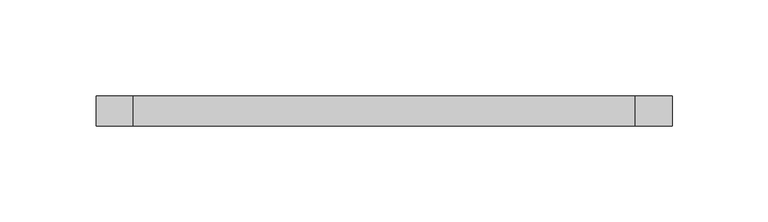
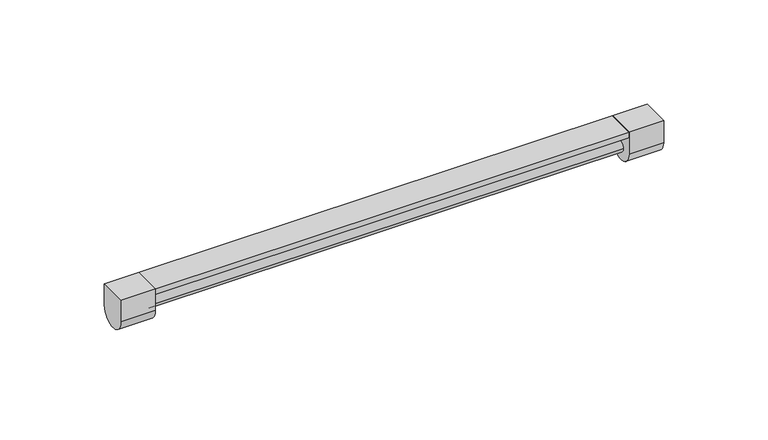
"""IFC4 building model written with IfcOpenShell, lengths in millimetres: light fixture geometry, 層板燈 (2)-向下照射 : 10瓦層板燈."""

from ifc_helpers import new_model, si_unit, point, frame, frame_2d, origin, place, context, project, spatial, polyline, circle_curve, trimmed, segment, composite_curve, outline, extrude, source, transform, mapped, element, save


def light_fixture_e90a5b80(model_context):
    return source(origin(), model_context, "Body", "SweptSolid", [
        extrude(outline(composite_curve([segment(polyline([(-7.9375, 1350.0), (7.9375, 1350.0), (7.9375, 1337.3)]), True, "CONTINUOUS"), segment(trimmed(circle_curve(frame_2d((0.0, 1337.3)), 7.9375), [point((7.9375, 1337.3))], [point((-7.9375, 1337.3))], False, "CARTESIAN"), True, "CONTINUOUS"), segment(polyline([(-7.9375, 1337.3), (-7.9375, 1350.0)]), True, "CONTINUOUS")], self_intersect=False)), frame((130.95, 0.0, 0.0), z_axis=(1.0, 0.0, 0.0), x_axis=(0.0, 1.0, 0.0)), (0.0, 0.0, 1.0), 19.05),
        extrude(outline(composite_curve([segment(polyline([(7.9375, 1350.0), (7.9375, 1337.3)]), True, "CONTINUOUS"), segment(trimmed(circle_curve(frame_2d((0.0, 1337.3)), 7.9375), [point((7.9375, 1337.3))], [point((-7.9375, 1337.3))], False, "CARTESIAN"), True, "CONTINUOUS"), segment(polyline([(-7.9375, 1337.3), (-7.9375, 1350.0), (7.9375, 1350.0)]), True, "CONTINUOUS")], self_intersect=False)), frame((-150.0, 0.0, 0.0), z_axis=(1.0, 0.0, 0.0), x_axis=(0.0, 1.0, 0.0)), (0.0, 0.0, 1.0), 19.05),
        extrude(outline(polyline([(130.95, 7.9375), (130.95, -7.9375), (-130.95, -7.9375), (-130.95, 7.9375), (130.95, 7.9375)])), frame((0.0, 0.0, 1346.7197499), z_axis=(0.0, 0.0, 1.0), x_axis=(1.0, 0.0, 0.0)), (0.0, 0.0, 1.0), 3.2802501),
        extrude(outline(composite_curve([segment(trimmed(circle_curve(frame_2d((0.0, 1337.3)), 3.0), [point((3.0, 1337.3))], [point((-3.0, 1337.3))], False, "CARTESIAN"), True, "CONTINUOUS"), segment(trimmed(circle_curve(frame_2d((0.0, 1337.3)), 3.0), [point((-3.0, 1337.3))], [point((3.0, 1337.3))], False, "CARTESIAN"), True, "CONTINUOUS")], self_intersect=False)), frame((-130.95, 0.0, 0.0), z_axis=(1.0, 0.0, 0.0), x_axis=(0.0, 1.0, 0.0)), (0.0, 0.0, 1.0), 261.9),
    ])


if __name__ == "__main__":
    model = new_model("IFC4")
    model_context = context("Model", 3, world=origin())
    ifc_project = project(units=[si_unit("LENGTHUNIT", "METRE", prefix="MILLI")], contexts=[model_context])
    site = spatial("IfcSite", under=ifc_project)
    building = spatial("IfcBuilding", under=site)
    placement = place(None, origin())
    light_fixture_shape = light_fixture_e90a5b80(model_context)
    element("IfcLightFixture", 1, ObjectType="層板燈 (2)-向下照射 : 10瓦層板燈", at=placement, inside=building, context=model_context, shape_type="MappedRepresentation", body=[
        mapped(light_fixture_shape, transform((0.0, 0.0, 0.0), x_axis=(1.0, 0.0, 0.0), y_axis=(0.0, 1.0, 0.0), z_axis=(0.0, 0.0, 1.0))),
    ])
    save(model, "model.ifc")
